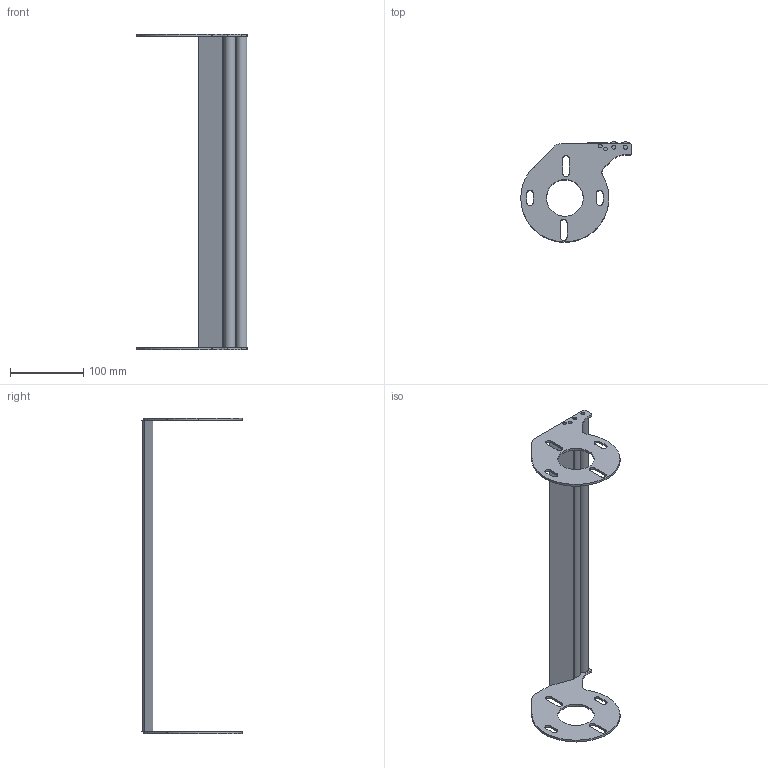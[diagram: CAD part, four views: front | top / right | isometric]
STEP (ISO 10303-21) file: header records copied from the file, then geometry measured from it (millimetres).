
FILE_DESCRIPTION (( 'STEP AP214' ), '1' );
FILE_NAME ('F2 1500 TG1M.step', '2017-04-05T06:48:25', ( '' ), ( '' ), 'SwSTEP 2.0', 'SolidWorks 2015', '' );
FILE_SCHEMA (( 'AUTOMOTIVE_DESIGN' ));
Length unit declared in the file: millimetre
Products named in the file (1): F2 1500 TG1M
Bounding box: 150.4 x 136.54 x 430 mm (x, y, z)
Volume: 330769 mm3; surface area: 124420.2 mm2
Topology: 1 solids, 1 shells, 114 faces, 312 edges, 204 vertices
Faces by surface type: plane 61, cylinder 53
Entity records: 4838 total; most frequent: DIRECTION 656, CARTESIAN_POINT 631, ORIENTED_EDGE 624, EDGE_CURVE 312, AXIS2_PLACEMENT_3D 229, VERTEX_POINT 204, VECTOR 198, LINE 198
